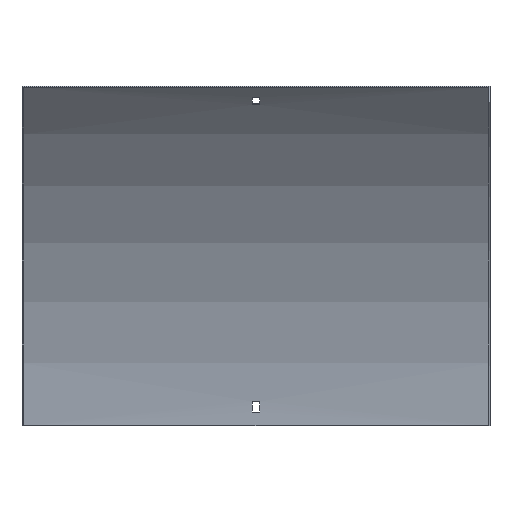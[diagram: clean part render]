
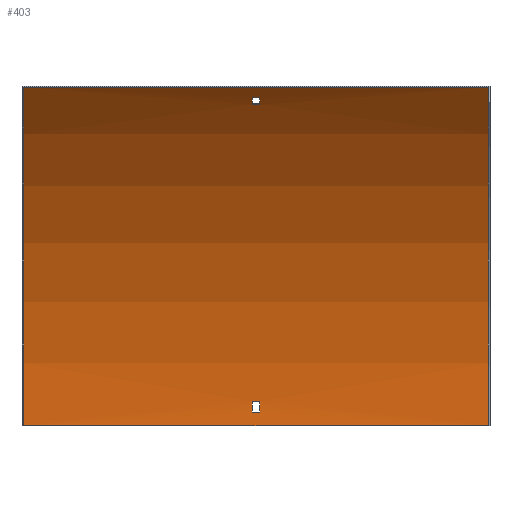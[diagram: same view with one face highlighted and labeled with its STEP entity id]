
A CAD part, front view. The second image highlights one B-rep face of the part: STEP entity #403.
In plain terms, the highlighted cylindrical face has radius 412.5 mm (diameter 825 mm), a partial arc.
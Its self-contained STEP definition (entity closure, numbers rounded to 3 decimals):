
#1 = VERTEX_POINT ( 'NONE', #418 ) ;
#2 = ORIENTED_EDGE ( 'NONE', *, *, #306, .F. ) ;
#20 = DIRECTION ( 'NONE',  ( -1., 0., 0. ) ) ;
#21 = CARTESIAN_POINT ( 'NONE',  ( -3.25, -1.675, 12. ) ) ;
#27 = CARTESIAN_POINT ( 'NONE',  ( 3.25, -1.675, 12. ) ) ;
#32 = EDGE_CURVE ( 'NONE', #327, #1, #228, .T. ) ;
#42 = ORIENTED_EDGE ( 'NONE', *, *, #48, .T. ) ;
#43 = EDGE_LOOP ( 'NONE', ( #410, #2, #362, #121 ) ) ;
#46 = CARTESIAN_POINT ( 'NONE',  ( 200., -1.5, 0. ) ) ;
#48 = EDGE_CURVE ( 'NONE', #500, #507, #198, .T. ) ;
#50 = CARTESIAN_POINT ( 'NONE',  ( 201.5, -2.035, 21. ) ) ;
#56 = CARTESIAN_POINT ( 'NONE',  ( 3.25, -414., 0. ) ) ;
#68 = CARTESIAN_POINT ( 'NONE',  ( 201.5, -107.847, 276.454 ) ) ;
#73 = FACE_BOUND ( 'NONE', #505, .T. ) ;
#89 = VECTOR ( 'NONE', #311, 1000. ) ;
#94 = ORIENTED_EDGE ( 'NONE', *, *, #142, .F. ) ;
#105 = CIRCLE ( 'NONE', #495, 412.5 ) ;
#113 = LINE ( 'NONE', #68, #150 ) ;
#119 = VECTOR ( 'NONE', #260, 1000. ) ;
#121 = ORIENTED_EDGE ( 'NONE', *, *, #358, .T. ) ;
#125 = CARTESIAN_POINT ( 'NONE',  ( -3.25, -2.035, 21. ) ) ;
#128 = EDGE_CURVE ( 'NONE', #231, #216, #129, .T. ) ;
#129 = CIRCLE ( 'NONE', #477, 412.5 ) ;
#136 = ORIENTED_EDGE ( 'NONE', *, *, #219, .F. ) ;
#142 = EDGE_CURVE ( 'NONE', #369, #442, #105, .T. ) ;
#147 = CARTESIAN_POINT ( 'NONE',  ( 201.5, -414., 0. ) ) ;
#150 = VECTOR ( 'NONE', #20, 1000. ) ;
#152 = EDGE_CURVE ( 'NONE', #329, #405, #213, .T. ) ;
#155 = EDGE_CURVE ( 'NONE', #405, #500, #113, .T. ) ;
#163 = VECTOR ( 'NONE', #241, 1000. ) ;
#196 = CARTESIAN_POINT ( 'NONE',  ( -200., -414., 0. ) ) ;
#198 = CIRCLE ( 'NONE', #218, 412.5 ) ;
#200 = DIRECTION ( 'NONE',  ( 1., 0., 0. ) ) ;
#213 = CIRCLE ( 'NONE', #339, 412.5 ) ;
#216 = VERTEX_POINT ( 'NONE', #493 ) ;
#218 = AXIS2_PLACEMENT_3D ( 'NONE', #518, #386, #572 ) ;
#219 = EDGE_CURVE ( 'NONE', #274, #317, #273, .T. ) ;
#224 = LINE ( 'NONE', #549, #571 ) ;
#228 = CIRCLE ( 'NONE', #307, 412.5 ) ;
#230 = CARTESIAN_POINT ( 'NONE',  ( 3.25, -2.035, 21. ) ) ;
#231 = VERTEX_POINT ( 'NONE', #578 ) ;
#236 = CARTESIAN_POINT ( 'NONE',  ( 3.25, -113.957, 283.073 ) ) ;
#241 = DIRECTION ( 'NONE',  ( -1., 0., 0. ) ) ;
#253 = DIRECTION ( 'NONE',  ( 0., 0., 1. ) ) ;
#255 = EDGE_CURVE ( 'NONE', #507, #329, #532, .T. ) ;
#258 = CARTESIAN_POINT ( 'NONE',  ( 201.5, -113.957, 283.073 ) ) ;
#260 = DIRECTION ( 'NONE',  ( 1., 0., 0. ) ) ;
#272 = CARTESIAN_POINT ( 'NONE',  ( 200., -1.5, 0. ) ) ;
#273 = CIRCLE ( 'NONE', #351, 412.5 ) ;
#274 = VERTEX_POINT ( 'NONE', #27 ) ;
#304 = ORIENTED_EDGE ( 'NONE', *, *, #152, .T. ) ;
#305 = CARTESIAN_POINT ( 'NONE',  ( 3.25, -414., 0. ) ) ;
#306 = EDGE_CURVE ( 'NONE', #327, #231, #593, .T. ) ;
#307 = AXIS2_PLACEMENT_3D ( 'NONE', #567, #523, #335 ) ;
#311 = DIRECTION ( 'NONE',  ( -1., 0., 0. ) ) ;
#317 = VERTEX_POINT ( 'NONE', #230 ) ;
#322 = ORIENTED_EDGE ( 'NONE', *, *, #255, .T. ) ;
#327 = VERTEX_POINT ( 'NONE', #46 ) ;
#329 = VERTEX_POINT ( 'NONE', #236 ) ;
#335 = DIRECTION ( 'NONE',  ( 0., 0., -1. ) ) ;
#339 = AXIS2_PLACEMENT_3D ( 'NONE', #56, #525, #432 ) ;
#340 = DIRECTION ( 'NONE',  ( 0., 0., -1. ) ) ;
#347 = CARTESIAN_POINT ( 'NONE',  ( 201.5, -1.675, 12. ) ) ;
#351 = AXIS2_PLACEMENT_3D ( 'NONE', #305, #528, #444 ) ;
#358 = EDGE_CURVE ( 'NONE', #1, #216, #224, .T. ) ;
#362 = ORIENTED_EDGE ( 'NONE', *, *, #32, .T. ) ;
#363 = AXIS2_PLACEMENT_3D ( 'NONE', #147, #485, #253 ) ;
#364 = FACE_OUTER_BOUND ( 'NONE', #43, .T. ) ;
#369 = VERTEX_POINT ( 'NONE', #125 ) ;
#384 = CARTESIAN_POINT ( 'NONE',  ( -3.25, -107.847, 276.454 ) ) ;
#386 = DIRECTION ( 'NONE',  ( 1., 0., 0. ) ) ;
#387 = CARTESIAN_POINT ( 'NONE',  ( -3.25, -113.957, 283.073 ) ) ;
#390 = CARTESIAN_POINT ( 'NONE',  ( -3.25, -414., 0. ) ) ;
#395 = LINE ( 'NONE', #347, #458 ) ;
#403 = ADVANCED_FACE ( 'NONE', ( #73, #364, #547 ), #446, .F. ) ;
#405 = VERTEX_POINT ( 'NONE', #459 ) ;
#410 = ORIENTED_EDGE ( 'NONE', *, *, #128, .F. ) ;
#418 = CARTESIAN_POINT ( 'NONE',  ( 200., -122.318, 291.682 ) ) ;
#432 = DIRECTION ( 'NONE',  ( 0., 0., 1. ) ) ;
#442 = VERTEX_POINT ( 'NONE', #21 ) ;
#444 = DIRECTION ( 'NONE',  ( 0., 0., -1. ) ) ;
#446 = CYLINDRICAL_SURFACE ( 'NONE', #363, 412.5 ) ;
#450 = ORIENTED_EDGE ( 'NONE', *, *, #584, .F. ) ;
#458 = VECTOR ( 'NONE', #531, 1000. ) ;
#459 = CARTESIAN_POINT ( 'NONE',  ( 3.25, -107.847, 276.454 ) ) ;
#466 = ORIENTED_EDGE ( 'NONE', *, *, #155, .T. ) ;
#477 = AXIS2_PLACEMENT_3D ( 'NONE', #196, #200, #340 ) ;
#485 = DIRECTION ( 'NONE',  ( -1., 0., 0. ) ) ;
#493 = CARTESIAN_POINT ( 'NONE',  ( -200., -122.318, 291.682 ) ) ;
#495 = AXIS2_PLACEMENT_3D ( 'NONE', #390, #569, #524 ) ;
#500 = VERTEX_POINT ( 'NONE', #384 ) ;
#502 = EDGE_LOOP ( 'NONE', ( #466, #42, #322, #304 ) ) ;
#505 = EDGE_LOOP ( 'NONE', ( #94, #548, #136, #450 ) ) ;
#507 = VERTEX_POINT ( 'NONE', #387 ) ;
#517 = EDGE_CURVE ( 'NONE', #317, #369, #568, .T. ) ;
#518 = CARTESIAN_POINT ( 'NONE',  ( -3.25, -414., 0. ) ) ;
#523 = DIRECTION ( 'NONE',  ( 1., 0., 0. ) ) ;
#524 = DIRECTION ( 'NONE',  ( 0., 0., 1. ) ) ;
#525 = DIRECTION ( 'NONE',  ( -1., 0., 0. ) ) ;
#528 = DIRECTION ( 'NONE',  ( 1., 0., 0. ) ) ;
#531 = DIRECTION ( 'NONE',  ( 1., 0., 0. ) ) ;
#532 = LINE ( 'NONE', #258, #119 ) ;
#547 = FACE_BOUND ( 'NONE', #502, .T. ) ;
#548 = ORIENTED_EDGE ( 'NONE', *, *, #517, .F. ) ;
#549 = CARTESIAN_POINT ( 'NONE',  ( 200., -122.318, 291.682 ) ) ;
#567 = CARTESIAN_POINT ( 'NONE',  ( 200., -414., 0. ) ) ;
#568 = LINE ( 'NONE', #50, #163 ) ;
#569 = DIRECTION ( 'NONE',  ( -1., 0., 0. ) ) ;
#571 = VECTOR ( 'NONE', #600, 1000. ) ;
#572 = DIRECTION ( 'NONE',  ( 0., 0., -1. ) ) ;
#578 = CARTESIAN_POINT ( 'NONE',  ( -200., -1.5, 0. ) ) ;
#584 = EDGE_CURVE ( 'NONE', #442, #274, #395, .T. ) ;
#593 = LINE ( 'NONE', #272, #89 ) ;
#600 = DIRECTION ( 'NONE',  ( -1., 0., 0. ) ) ;
